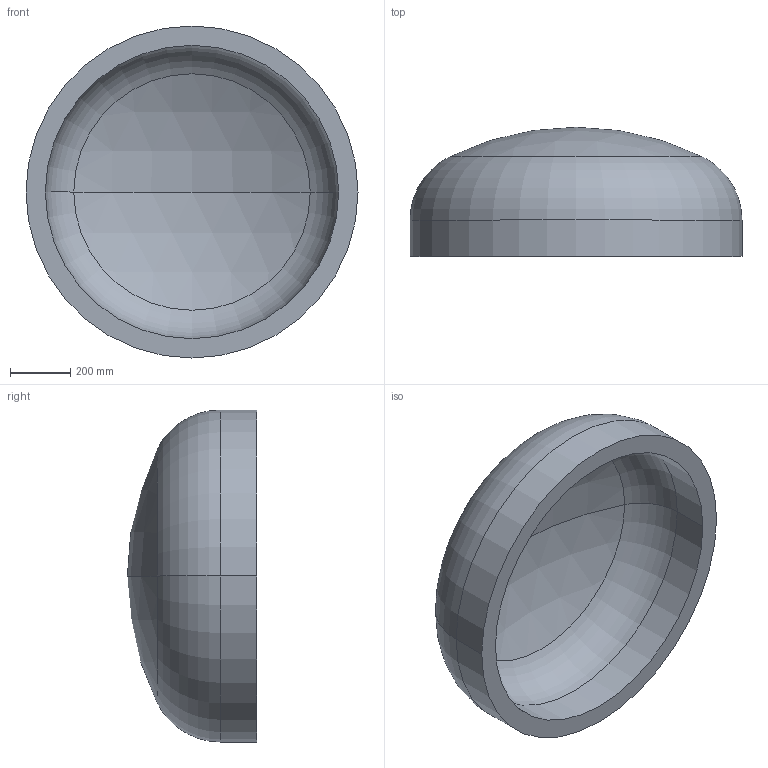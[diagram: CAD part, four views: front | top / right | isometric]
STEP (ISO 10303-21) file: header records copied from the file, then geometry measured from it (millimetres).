
FILE_DESCRIPTION (( 'STEP AP203' ), '1' );
FILE_NAME ('DIN 28013 Korbbogenform_-_Boden DIN 28013 - 1100 x 120 - I - s=64.step', '2016-07-01T09:11:35', ( '' ), ( '' ), 'SwSTEP 2.0', 'SolidWorks 2013', '' );
FILE_SCHEMA (( 'CONFIG_CONTROL_DESIGN' ));
Length unit declared in the file: millimetre
Products named in the file (1): DIN 28013 Korbbogenform_-_Boden DIN 28013 - 1100 x 120 - I - s=64
Bounding box: 1100 x 428.2 x 1100 mm (x, y, z)
Volume: 103259928.5 mm3; surface area: 3443750.9 mm2
Topology: 1 solids, 1 shells, 13 faces, 24 edges, 14 vertices
Faces by surface type: torus 4, cylinder 4, sphere 4, plane 1
Entity records: 407 total; most frequent: DIRECTION 72, CARTESIAN_POINT 52, ORIENTED_EDGE 48, AXIS2_PLACEMENT_3D 34, EDGE_CURVE 24, CIRCLE 20, EDGE_LOOP 14, VERTEX_POINT 14
